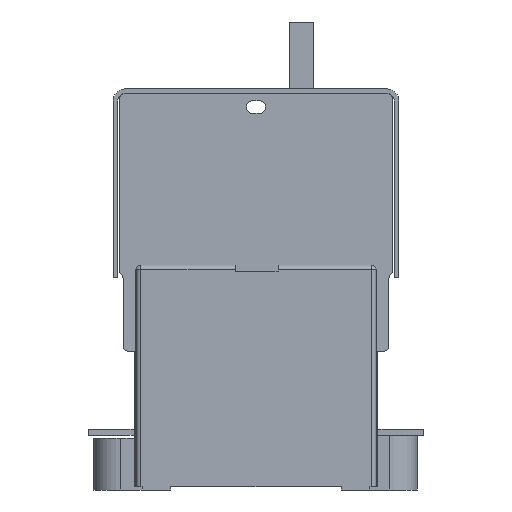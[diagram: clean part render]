
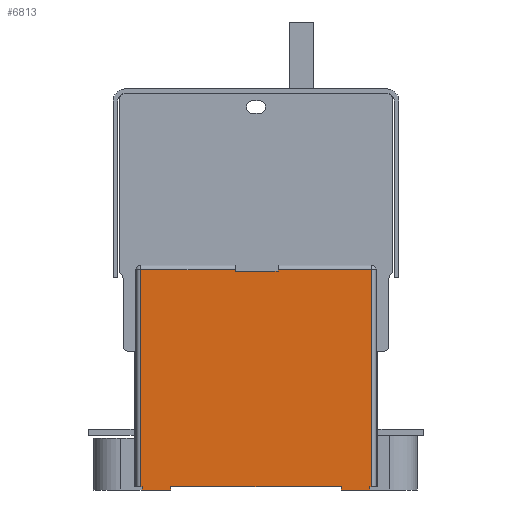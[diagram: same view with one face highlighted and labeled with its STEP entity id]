
A CAD part, left-side view. The second image highlights one B-rep face of the part: STEP entity #6813.
In plain terms, the highlighted planar face has unit normal (-1, 0, 0).
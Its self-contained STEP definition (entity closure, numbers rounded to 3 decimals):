
#710=PLANE('',#21182);
#1636=FACE_OUTER_BOUND('',#8588,.T.);
#3412=LINE('',#31564,#5496);
#3414=LINE('',#31570,#5498);
#3484=LINE('',#31882,#5568);
#3500=LINE('',#31962,#5584);
#3535=LINE('',#32061,#5619);
#3540=LINE('',#32073,#5624);
#3542=LINE('',#32076,#5626);
#3548=LINE('',#32089,#5632);
#3685=LINE('',#32373,#5769);
#3686=LINE('',#32377,#5770);
#3687=LINE('',#32378,#5771);
#3688=LINE('',#32380,#5772);
#3689=LINE('',#32382,#5773);
#3690=LINE('',#32383,#5774);
#3691=LINE('',#32384,#5775);
#3692=LINE('',#32386,#5776);
#5496=VECTOR('',#25564,1.);
#5498=VECTOR('',#25570,1.);
#5568=VECTOR('',#25858,1.);
#5584=VECTOR('',#25970,1.);
#5619=VECTOR('',#26075,1.);
#5624=VECTOR('',#26082,1.);
#5626=VECTOR('',#26086,1.);
#5632=VECTOR('',#26094,1.);
#5769=VECTOR('',#26347,1.);
#5770=VECTOR('',#26352,1.);
#5771=VECTOR('',#26353,1.);
#5772=VECTOR('',#26354,1.);
#5773=VECTOR('',#26355,1.);
#5774=VECTOR('',#26356,1.);
#5775=VECTOR('',#26357,1.);
#5776=VECTOR('',#26358,1.);
#6813=ADVANCED_FACE('',(#1636),#710,.F.);
#8588=EDGE_LOOP('',(#13643,#13644,#13645,#13646,#13647,#13648,#13649,#13650,
#13651,#13652,#13653,#13654,#13655,#13656,#13657,#13658));
#13643=ORIENTED_EDGE('',*,*,#18836,.F.);
#13644=ORIENTED_EDGE('',*,*,#18626,.T.);
#13645=ORIENTED_EDGE('',*,*,#18450,.T.);
#13646=ORIENTED_EDGE('',*,*,#18838,.F.);
#13647=ORIENTED_EDGE('',*,*,#18453,.T.);
#13648=ORIENTED_EDGE('',*,*,#18586,.T.);
#13649=ORIENTED_EDGE('',*,*,#18839,.T.);
#13650=ORIENTED_EDGE('',*,*,#18840,.T.);
#13651=ORIENTED_EDGE('',*,*,#18841,.F.);
#13652=ORIENTED_EDGE('',*,*,#18673,.F.);
#13653=ORIENTED_EDGE('',*,*,#18678,.T.);
#13654=ORIENTED_EDGE('',*,*,#18842,.T.);
#13655=ORIENTED_EDGE('',*,*,#18686,.F.);
#13656=ORIENTED_EDGE('',*,*,#18680,.F.);
#13657=ORIENTED_EDGE('',*,*,#18843,.T.);
#13658=ORIENTED_EDGE('',*,*,#18844,.T.);
#15873=VERTEX_POINT('',#31563);
#15874=VERTEX_POINT('',#31565);
#15876=VERTEX_POINT('',#31571);
#15877=VERTEX_POINT('',#31572);
#15965=VERTEX_POINT('',#31877);
#15966=VERTEX_POINT('',#31881);
#16012=VERTEX_POINT('',#32062);
#16013=VERTEX_POINT('',#32063);
#16017=VERTEX_POINT('',#32072);
#16018=VERTEX_POINT('',#32077);
#16019=VERTEX_POINT('',#32078);
#16022=VERTEX_POINT('',#32086);
#16113=VERTEX_POINT('',#32374);
#16114=VERTEX_POINT('',#32379);
#16115=VERTEX_POINT('',#32381);
#16116=VERTEX_POINT('',#32385);
#18450=EDGE_CURVE('',#15874,#15873,#3412,.T.);
#18453=EDGE_CURVE('',#15876,#15877,#3414,.T.);
#18586=EDGE_CURVE('',#15877,#15966,#3484,.T.);
#18626=EDGE_CURVE('',#15965,#15874,#3500,.T.);
#18673=EDGE_CURVE('',#16012,#16013,#3535,.T.);
#18678=EDGE_CURVE('',#16012,#16017,#3540,.T.);
#18680=EDGE_CURVE('',#16018,#16019,#3542,.T.);
#18686=EDGE_CURVE('',#16019,#16022,#3548,.T.);
#18836=EDGE_CURVE('',#15965,#16113,#3685,.T.);
#18838=EDGE_CURVE('',#15876,#15873,#3686,.T.);
#18839=EDGE_CURVE('',#15966,#16114,#3687,.T.);
#18840=EDGE_CURVE('',#16114,#16115,#3688,.T.);
#18841=EDGE_CURVE('',#16013,#16115,#3689,.T.);
#18842=EDGE_CURVE('',#16017,#16022,#3690,.T.);
#18843=EDGE_CURVE('',#16018,#16116,#3691,.T.);
#18844=EDGE_CURVE('',#16116,#16113,#3692,.T.);
#21182=AXIS2_PLACEMENT_3D('',#32387,#26359,#26360);
#25564=DIRECTION('',(0.,0.,-1.));
#25570=DIRECTION('',(0.,0.,1.));
#25858=DIRECTION('',(0.,1.,0.));
#25970=DIRECTION('',(0.,1.,0.));
#26075=DIRECTION('',(0.,1.,0.));
#26082=DIRECTION('',(0.,0.,1.));
#26086=DIRECTION('',(0.,1.,0.));
#26094=DIRECTION('',(0.,0.,1.));
#26347=DIRECTION('',(0.,0.,-1.));
#26352=DIRECTION('',(0.,-1.,0.));
#26353=DIRECTION('',(0.,0.,-1.));
#26354=DIRECTION('',(0.,-1.,0.));
#26355=DIRECTION('',(0.,0.,1.));
#26356=DIRECTION('',(0.,-1.,0.));
#26357=DIRECTION('',(0.,0.,1.));
#26358=DIRECTION('',(0.,-1.,0.));
#26359=DIRECTION('',(1.,0.,0.));
#26360=DIRECTION('',(0.,0.,-1.));
#31563=CARTESIAN_POINT('',(-69.,-31.985,67.));
#31564=CARTESIAN_POINT('',(-69.,-31.985,69.1));
#31565=CARTESIAN_POINT('',(-69.,-31.985,67.6));
#31570=CARTESIAN_POINT('',(-69.,-17.985,69.1));
#31571=CARTESIAN_POINT('',(-69.,-17.985,67.));
#31572=CARTESIAN_POINT('',(-69.,-17.985,67.6));
#31877=CARTESIAN_POINT('',(-69.,-62.735,67.6));
#31881=CARTESIAN_POINT('',(-69.,13.265,67.6));
#31882=CARTESIAN_POINT('',(-69.,13.265,67.6));
#31962=CARTESIAN_POINT('',(-69.,13.265,67.6));
#32061=CARTESIAN_POINT('',(-69.,3.265,-4.9));
#32062=CARTESIAN_POINT('',(-69.,3.265,-4.9));
#32063=CARTESIAN_POINT('',(-69.,12.765,-4.9));
#32072=CARTESIAN_POINT('',(-69.,3.265,-3.9));
#32073=CARTESIAN_POINT('',(-69.,3.265,-5.9));
#32076=CARTESIAN_POINT('',(-69.,-62.235,-4.9));
#32077=CARTESIAN_POINT('',(-69.,-62.235,-4.9));
#32078=CARTESIAN_POINT('',(-69.,-52.735,-4.9));
#32086=CARTESIAN_POINT('',(-69.,-52.735,-3.9));
#32089=CARTESIAN_POINT('',(-69.,-52.735,-5.9));
#32373=CARTESIAN_POINT('',(-69.,-62.735,69.1));
#32374=CARTESIAN_POINT('',(-69.,-62.735,-3.9));
#32377=CARTESIAN_POINT('',(-69.,12.765,67.));
#32378=CARTESIAN_POINT('',(-69.,13.265,69.1));
#32379=CARTESIAN_POINT('',(-69.,13.265,-3.9));
#32380=CARTESIAN_POINT('',(-69.,-62.235,-3.9));
#32381=CARTESIAN_POINT('',(-69.,12.765,-3.9));
#32382=CARTESIAN_POINT('',(-69.,12.765,-5.9));
#32383=CARTESIAN_POINT('',(-69.,-62.235,-3.9));
#32384=CARTESIAN_POINT('',(-69.,-62.235,-5.9));
#32385=CARTESIAN_POINT('',(-69.,-62.235,-3.9));
#32386=CARTESIAN_POINT('',(-69.,-62.235,-3.9));
#32387=CARTESIAN_POINT('',(-69.,-62.235,69.1));
